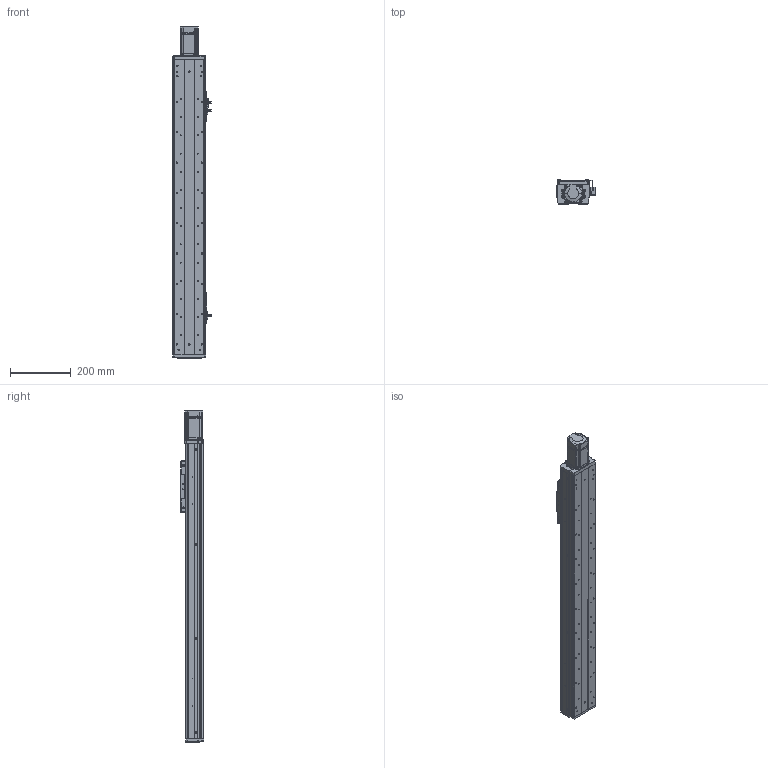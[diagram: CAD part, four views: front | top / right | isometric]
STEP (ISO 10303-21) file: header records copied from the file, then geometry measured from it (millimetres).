
FILE_DESCRIPTION (( 'STEP AP203' ), '1' );
FILE_NAME ('RY100FS-300-MK(15双轨).SLDASM_700.step', '2021-03-02T05:51:00', ( '盈信电脑' ), ( '东莞市道滘镇水果街19号' ), 'SwSTEP 2.0', 'SolidWorks 2012', '' );
FILE_SCHEMA (( 'CONFIG_CONTROL_DESIGN' ));
Products named in the file (20): RY100FS-300-MK(15邧寢).SLDASM_700; 滅袉蝶14-35; 滅袉蝶14-24; RY100F-詩湍揤踡輸; RY100FS-15絳寢萇儂假蚾啣(200W PCD70 M4); RY100FS-双轨螺母座(16丝杆）; 覜茼ん672; 侂狟200W萇儂; 672嫖萇羲壽假蚾釱; RY80俋离覜茼え; RY100F-綴裔啣; RY100F-詩湍幗謫粣; 棠沺沭; 1; RY100F-詩湍揤踡謫; RY100FS-双轨铝滑块(上板）; RY100FS-300-MK15邧寢祥凄詩湍_700; RY100F-滅鳥裔啣; RY100FS-300-MK15絳寢倰第奻裔啣_700; RY100FS-300-MK15絳寢倰第菁釱_700
Assembly tree (27 placements, depth 3):
  RY100FS-300-MK(15邧寢).SLDASM_700
    RY100FS-300-MK15絳寢倰第菁釱_700
    RY100FS-300-MK15絳寢倰第奻裔啣_700  x2
    RY100FS-300-MK15邧寢祥凄詩湍_700
    RY100FS-双轨铝滑块(上板）
    RY100F-滅鳥裔啣
    棠沺沭  x2
    RY100F-詩湍幗謫粣
    RY100F-詩湍揤踡謫  x2
    侂狟200W萇儂
      1
    RY100F-綴裔啣
    672嫖萇羲壽假蚾釱  x2
    RY80俋离覜茼え  x2
    覜茼ん672  x3
    RY100F-詩湍揤踡輸  x2
    RY100FS-15絳寢萇儂假蚾啣(200W PCD70 M4)
    RY100FS-双轨螺母座(16丝杆）
    滅袉蝶14-24
    滅袉蝶14-35
Bounding box: 126.2 x 78.5 x 1096 mm (x, y, z)
Volume: 2358314.3 mm3; surface area: 960551.9 mm2
Topology: 26 solids, 26 shells, 2046 faces, 5600 edges, 3642 vertices
Faces by surface type: plane 975, cylinder 910, cone 136, bspline 25
Entity records: 58752 total; most frequent: CARTESIAN_POINT 12351, DIRECTION 9201, ORIENTED_EDGE 9180, EDGE_CURVE 4590, AXIS2_PLACEMENT_3D 3234, VERTEX_POINT 3022, LINE 2733, VECTOR 2733
